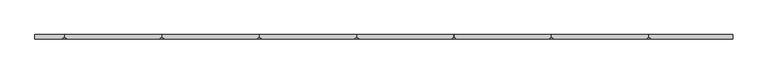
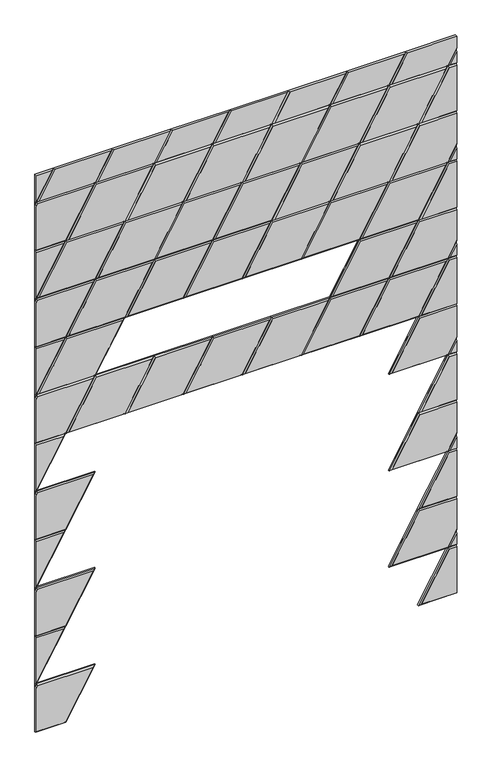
"""IFC4 building model written with IfcOpenShell, lengths in millimetres: proxy geometry, Wall_Cissu 5.3dm."""

from ifc_helpers import new_model, si_unit, origin, place, context, project, spatial, faceted_brep, source, transform, mapped, element, save


def generic_models_64ce190c(model_context):
    return source(origin(), model_context, "Body", "Brep", [
        faceted_brep([(4508.0, 6.037064, 1693.7724847), (4512.0151491, 6.037064, 1693.7724847), (4508.0, 6.037064, 1686.8180425), (4508.0, 0.037064, 1686.8180425), (4512.0151491, 0.037064, 1693.7724847), (4508.0, 0.037064, 1693.7724847), (4508.0, -2.2810834, 1691.4543373)], [[[0, 1, 2]], [[3, 2, 1, 4]], [[0, 5, 4, 1]], [[6, 3, 4]], [[5, 6, 4]], [[0, 2, 3, 6, 5]]]),
        faceted_brep([(4508.0, 6.037064, 1935.7399825), (4651.7151491, 6.037064, 1935.7399825), (4512.0151491, 6.037064, 1693.7724847), (4508.0, 6.037064, 1693.7724847), (4508.0, 0.037064, 1693.7724847), (4512.0151491, 0.037064, 1693.7724847), (4651.7151491, 0.037064, 1935.7399825), (4508.0, 0.037064, 1935.7399825), (4508.0, -5.962936, 1929.7399825), (4508.0, -5.962936, 1699.7724847), (4508.5510475, -5.962936, 1699.7724847), (4641.3228443, -5.962936, 1929.7399825)], [[[0, 1, 2, 3]], [[4, 3, 2, 5]], [[5, 2, 1, 6]], [[0, 7, 6, 1]], [[8, 9, 10, 11]], [[9, 4, 5, 10]], [[5, 6, 11, 10]], [[7, 8, 11, 6]], [[0, 3, 4, 9, 8, 7]]]),
        faceted_brep([(4508.0, 6.037064, 2419.6749782), (4651.7151491, 6.037064, 2419.6749782), (4512.0151491, 6.037064, 2177.7074804), (4508.0, 6.037064, 2177.7074804), (4508.0, 0.037064, 2177.7074804), (4512.0151491, 0.037064, 2177.7074804), (4651.7151491, 0.037064, 2419.6749782), (4508.0, 0.037064, 2419.6749782), (4508.0, -5.962936, 2413.6749782), (4508.0, -5.962936, 2183.7074804), (4508.5510475, -5.962936, 2183.7074804), (4641.3228443, -5.962936, 2413.6749782)], [[[0, 1, 2, 3]], [[4, 3, 2, 5]], [[5, 2, 1, 6]], [[0, 7, 6, 1]], [[8, 9, 10, 11]], [[9, 4, 5, 10]], [[5, 6, 11, 10]], [[7, 8, 11, 6]], [[0, 3, 4, 9, 8, 7]]]),
        faceted_brep([(4508.0, 6.037064, 2177.7074804), (4512.0151491, 6.037064, 2177.7074804), (4508.0, 6.037064, 2170.7530381), (4508.0, 0.037064, 2170.7530381), (4512.0151491, 0.037064, 2177.7074804), (4508.0, 0.037064, 2177.7074804), (4508.0, -2.2810834, 2175.3893329)], [[[0, 1, 2]], [[3, 2, 1, 4]], [[0, 5, 4, 1]], [[6, 3, 4]], [[5, 6, 4]], [[0, 2, 3, 6, 5]]]),
        faceted_brep([(4508.0, 6.037064, 2800.0), (4591.8959028, 6.037064, 2800.0), (4512.0151491, 6.037064, 2661.642476), (4508.0, 6.037064, 2661.642476), (4508.0, 0.037064, 2661.642476), (4512.0151491, 0.037064, 2661.642476), (4508.0, -5.962936, 2667.642476), (4508.5510475, -5.962936, 2667.642476), (4508.0, -5.962936, 2800.0), (4584.9676996, -5.962936, 2800.0), (4591.8959028, 0.037064, 2800.0)], [[[0, 1, 2, 3]], [[4, 3, 2, 5]], [[6, 4, 5, 7]], [[8, 9, 10, 1, 0]], [[10, 5, 2, 1]], [[8, 6, 7, 9]], [[9, 7, 5, 10]], [[0, 3, 4, 6, 8]]]),
        faceted_brep([(4508.0, 6.037064, 2661.642476), (4512.0151491, 6.037064, 2661.642476), (4508.0, 6.037064, 2654.6880337), (4508.0, 0.037064, 2654.6880337), (4512.0151491, 0.037064, 2661.642476), (4508.0, 0.037064, 2661.642476), (4508.0, -2.2810834, 2659.3243286)], [[[0, 1, 2]], [[3, 2, 1, 4]], [[0, 5, 4, 1]], [[6, 3, 4]], [[5, 6, 4]], [[0, 2, 3, 6, 5]]]),
        faceted_brep([(4512.0151491, 0.037064, 2661.642476), (4512.0151491, 6.037064, 2661.642476), (4791.4151491, 6.037064, 2661.642476), (4791.4151491, 0.037064, 2661.642476), (4787.9510475, -5.962936, 2667.642476), (4522.407454, -5.962936, 2667.642476), (4591.8959028, 6.037064, 2800.0), (4871.2959028, 6.037064, 2800.0), (4591.8959028, 0.037064, 2800.0), (4871.2959028, 0.037064, 2800.0), (4598.8241061, -5.962936, 2800.0), (4864.3676996, -5.962936, 2800.0)], [[[0, 1, 2, 3]], [[0, 3, 4, 5]], [[6, 7, 2, 1]], [[6, 1, 0, 8]], [[9, 3, 2, 7]], [[10, 5, 4, 11]], [[8, 0, 5, 10]], [[11, 4, 3, 9]], [[6, 8, 10, 11, 9, 7]]]),
        faceted_brep([(4508.0, 6.037064, 2654.6880337), (4512.0151491, 6.037064, 2661.642476), (4791.4151491, 6.037064, 2661.642476), (4651.7151491, 6.037064, 2419.6749782), (4508.0, 6.037064, 2419.6749782), (4508.0, 0.037064, 2654.6880337), (4512.0151491, 0.037064, 2661.642476), (4508.0, 0.037064, 2419.6749782), (4651.7151491, 0.037064, 2419.6749782), (4791.4151491, 0.037064, 2661.642476), (4508.0, -5.962936, 2642.6880337), (4508.0, -5.962936, 2425.6749782), (4648.2510475, -5.962936, 2425.6749782), (4781.0228443, -5.962936, 2655.642476), (4515.4792507, -5.962936, 2655.642476)], [[[0, 1, 2, 3, 4]], [[0, 5, 6, 1]], [[7, 4, 3, 8]], [[8, 3, 2, 9]], [[9, 2, 1, 6]], [[10, 11, 12, 13, 14]], [[5, 10, 14, 6]], [[11, 7, 8, 12]], [[8, 9, 13, 12]], [[9, 6, 14, 13]], [[0, 4, 7, 11, 10, 5]]]),
        faceted_brep([(4791.4151491, 0.037064, 2661.642476), (4791.4151491, 6.037064, 2661.642476), (5070.8151491, 6.037064, 2661.642476), (5070.8151491, 0.037064, 2661.642476), (5067.3510475, -5.962936, 2667.642476), (4801.807454, -5.962936, 2667.642476), (4871.2959028, 6.037064, 2800.0), (5150.6959028, 6.037064, 2800.0), (4871.2959028, 0.037064, 2800.0), (5150.6959028, 0.037064, 2800.0), (4878.2241061, -5.962936, 2800.0), (5143.7676996, -5.962936, 2800.0)], [[[0, 1, 2, 3]], [[0, 3, 4, 5]], [[6, 7, 2, 1]], [[6, 1, 0, 8]], [[9, 3, 2, 7]], [[10, 5, 4, 11]], [[8, 0, 5, 10]], [[11, 4, 3, 9]], [[6, 8, 10, 11, 9, 7]]]),
        faceted_brep([(6508.0, 6.037064, 2419.6749782), (6328.1151491, 6.037064, 2419.6749782), (6467.8151491, 6.037064, 2661.642476), (6508.0, 6.037064, 2661.642476), (6467.8151491, 0.037064, 2661.642476), (6328.1151491, 0.037064, 2419.6749782), (6508.0, 0.037064, 2419.6749782), (6508.0, 0.037064, 2661.642476), (6508.0, -5.962936, 2425.6749782), (6508.0, -5.962936, 2655.642476), (6471.2792507, -5.962936, 2655.642476), (6338.507454, -5.962936, 2425.6749782)], [[[0, 1, 2, 3]], [[4, 2, 1, 5]], [[0, 6, 5, 1]], [[7, 3, 2, 4]], [[8, 9, 10, 11]], [[4, 5, 11, 10]], [[6, 8, 11, 5]], [[9, 7, 4, 10]], [[0, 3, 7, 9, 8, 6]]]),
        faceted_brep([(5070.8151491, 0.037064, 2661.642476), (5070.8151491, 6.037064, 2661.642476), (5350.2151491, 6.037064, 2661.642476), (5350.2151491, 0.037064, 2661.642476), (5346.7510475, -5.962936, 2667.642476), (5081.207454, -5.962936, 2667.642476), (5150.6959028, 6.037064, 2800.0), (5430.0959028, 6.037064, 2800.0), (5150.6959028, 0.037064, 2800.0), (5430.0959028, 0.037064, 2800.0), (5157.6241061, -5.962936, 2800.0), (5423.1676996, -5.962936, 2800.0)], [[[0, 1, 2, 3]], [[0, 3, 4, 5]], [[6, 7, 2, 1]], [[6, 1, 0, 8]], [[9, 3, 2, 7]], [[10, 5, 4, 11]], [[8, 0, 5, 10]], [[11, 4, 3, 9]], [[6, 8, 10, 11, 9, 7]]]),
        faceted_brep([(6508.0, 6.037064, 2661.642476), (6467.8151491, 6.037064, 2661.642476), (6508.0, 6.037064, 2731.2446794), (6508.0, 0.037064, 2731.2446794), (6467.8151491, 0.037064, 2661.642476), (6508.0, 0.037064, 2661.642476), (6508.0, -5.962936, 2667.642476), (6508.0, -5.962936, 2719.2446794), (6478.207454, -5.962936, 2667.642476)], [[[0, 1, 2]], [[3, 2, 1, 4]], [[0, 5, 4, 1]], [[6, 7, 8]], [[7, 3, 4, 8]], [[5, 6, 8, 4]], [[0, 2, 3, 7, 6, 5]]]),
        faceted_brep([(6188.4151491, 0.037064, 2661.642476), (6188.4151491, 6.037064, 2661.642476), (6467.8151491, 6.037064, 2661.642476), (6467.8151491, 0.037064, 2661.642476), (6508.0, 6.037064, 2731.2446794), (6508.0, 0.037064, 2731.2446794), (6508.0, -5.962936, 2743.2446794), (6508.0, -5.962936, 2800.0), (6275.2241061, -5.962936, 2800.0), (6198.807454, -5.962936, 2667.642476), (6464.3510475, -5.962936, 2667.642476), (6508.0, 6.037064, 2800.0), (6268.2959028, 6.037064, 2800.0), (6268.2959028, 0.037064, 2800.0)], [[[0, 1, 2, 3]], [[4, 5, 3, 2]], [[6, 7, 8, 9, 10]], [[0, 3, 10, 9]], [[5, 6, 10, 3]], [[6, 5, 4, 11, 7]], [[12, 11, 4, 2, 1]], [[12, 1, 0, 13]], [[13, 0, 9, 8]], [[12, 13, 8, 7, 11]]]),
        faceted_brep([(5909.0151491, 0.037064, 2661.642476), (5909.0151491, 6.037064, 2661.642476), (6188.4151491, 6.037064, 2661.642476), (6188.4151491, 0.037064, 2661.642476), (6184.9510475, -5.962936, 2667.642476), (5919.407454, -5.962936, 2667.642476), (5988.8959028, 6.037064, 2800.0), (6268.2959028, 6.037064, 2800.0), (5988.8959028, 0.037064, 2800.0), (6268.2959028, 0.037064, 2800.0), (5995.8241061, -5.962936, 2800.0), (6261.3676996, -5.962936, 2800.0)], [[[0, 1, 2, 3]], [[0, 3, 4, 5]], [[6, 7, 2, 1]], [[6, 1, 0, 8]], [[9, 3, 2, 7]], [[10, 5, 4, 11]], [[8, 0, 5, 10]], [[11, 4, 3, 9]], [[6, 8, 10, 11, 9, 7]]]),
        faceted_brep([(5629.6151491, 0.037064, 2661.642476), (5629.6151491, 6.037064, 2661.642476), (5909.0151491, 6.037064, 2661.642476), (5909.0151491, 0.037064, 2661.642476), (5905.5510475, -5.962936, 2667.642476), (5640.007454, -5.962936, 2667.642476), (5709.4959028, 6.037064, 2800.0), (5988.8959028, 6.037064, 2800.0), (5709.4959028, 0.037064, 2800.0), (5988.8959028, 0.037064, 2800.0), (5716.4241061, -5.962936, 2800.0), (5981.9676996, -5.962936, 2800.0)], [[[0, 1, 2, 3]], [[0, 3, 4, 5]], [[6, 7, 2, 1]], [[6, 1, 0, 8]], [[9, 3, 2, 7]], [[10, 5, 4, 11]], [[8, 0, 5, 10]], [[11, 4, 3, 9]], [[6, 8, 10, 11, 9, 7]]]),
        faceted_brep([(5350.2151491, 0.037064, 2661.642476), (5350.2151491, 6.037064, 2661.642476), (5629.6151491, 6.037064, 2661.642476), (5629.6151491, 0.037064, 2661.642476), (5626.1510475, -5.962936, 2667.642476), (5360.607454, -5.962936, 2667.642476), (5430.0959028, 6.037064, 2800.0), (5709.4959028, 6.037064, 2800.0), (5430.0959028, 0.037064, 2800.0), (5709.4959028, 0.037064, 2800.0), (5437.0241061, -5.962936, 2800.0), (5702.5676996, -5.962936, 2800.0)], [[[0, 1, 2, 3]], [[0, 3, 4, 5]], [[6, 7, 2, 1]], [[6, 1, 0, 8]], [[9, 3, 2, 7]], [[10, 5, 4, 11]], [[8, 0, 5, 10]], [[11, 4, 3, 9]], [[6, 8, 10, 11, 9, 7]]]),
        faceted_brep([(4508.0, 6.037064, 2170.7530381), (4512.0151491, 6.037064, 2177.7074804), (4791.4151491, 6.037064, 2177.7074804), (4651.7151491, 6.037064, 1935.7399825), (4508.0, 6.037064, 1935.7399825), (4508.0, 0.037064, 2170.7530381), (4512.0151491, 0.037064, 2177.7074804), (4508.0, 0.037064, 1935.7399825), (4651.7151491, 0.037064, 1935.7399825), (4791.4151491, 0.037064, 2177.7074804), (4508.0, -5.962936, 2158.7530381), (4508.0, -5.962936, 1941.7399825), (4648.2510475, -5.962936, 1941.7399825), (4781.0228443, -5.962936, 2171.7074804), (4515.4792507, -5.962936, 2171.7074804)], [[[0, 1, 2, 3, 4]], [[0, 5, 6, 1]], [[7, 4, 3, 8]], [[8, 3, 2, 9]], [[9, 2, 1, 6]], [[10, 11, 12, 13, 14]], [[5, 10, 14, 6]], [[11, 7, 8, 12]], [[8, 9, 13, 12]], [[9, 6, 14, 13]], [[0, 4, 7, 11, 10, 5]]]),
        faceted_brep([(6508.0, 6.037064, 1935.7399825), (6328.1151491, 6.037064, 1935.7399825), (6467.8151491, 6.037064, 2177.7074804), (6508.0, 6.037064, 2177.7074804), (6467.8151491, 0.037064, 2177.7074804), (6328.1151491, 0.037064, 1935.7399825), (6508.0, 0.037064, 1935.7399825), (6508.0, 0.037064, 2177.7074804), (6508.0, -5.962936, 1941.7399825), (6508.0, -5.962936, 2171.7074804), (6471.2792507, -5.962936, 2171.7074804), (6338.507454, -5.962936, 1941.7399825)], [[[0, 1, 2, 3]], [[4, 2, 1, 5]], [[0, 6, 5, 1]], [[7, 3, 2, 4]], [[8, 9, 10, 11]], [[4, 5, 11, 10]], [[6, 8, 11, 5]], [[9, 7, 4, 10]], [[0, 3, 7, 9, 8, 6]]]),
        faceted_brep([(6508.0, 6.037064, 2177.7074804), (6467.8151491, 6.037064, 2177.7074804), (6508.0, 6.037064, 2247.3096838), (6508.0, 0.037064, 2247.3096838), (6467.8151491, 0.037064, 2177.7074804), (6508.0, 0.037064, 2177.7074804), (6508.0, -5.962936, 2183.7074804), (6508.0, -5.962936, 2235.3096838), (6478.207454, -5.962936, 2183.7074804)], [[[0, 1, 2]], [[3, 2, 1, 4]], [[0, 5, 4, 1]], [[6, 7, 8]], [[7, 3, 4, 8]], [[5, 6, 8, 4]], [[0, 2, 3, 7, 6, 5]]]),
        faceted_brep([(6508.0, 6.037064, 2247.3096838), (6467.8151491, 6.037064, 2177.7074804), (6188.4151491, 6.037064, 2177.7074804), (6328.1151491, 6.037064, 2419.6749782), (6508.0, 6.037064, 2419.6749782), (6328.1151491, 0.037064, 2419.6749782), (6188.4151491, 0.037064, 2177.7074804), (6467.8151491, 0.037064, 2177.7074804), (6508.0, 0.037064, 2247.3096838), (6508.0, 0.037064, 2419.6749782), (6508.0, -5.962936, 2259.3096838), (6508.0, -5.962936, 2413.6749782), (6331.5792507, -5.962936, 2413.6749782), (6198.807454, -5.962936, 2183.7074804), (6464.3510475, -5.962936, 2183.7074804)], [[[0, 1, 2, 3, 4]], [[5, 3, 2, 6]], [[6, 2, 1, 7]], [[0, 8, 7, 1]], [[9, 4, 3, 5]], [[10, 11, 12, 13, 14]], [[5, 6, 13, 12]], [[6, 7, 14, 13]], [[8, 10, 14, 7]], [[11, 9, 5, 12]], [[0, 4, 9, 11, 10, 8]]]),
        faceted_brep([(4508.0, 6.037064, 1686.8180425), (4512.0151491, 6.037064, 1693.7724847), (4791.4151491, 6.037064, 1693.7724847), (4651.7151491, 6.037064, 1451.8049869), (4508.0, 6.037064, 1451.8049869), (4508.0, 0.037064, 1686.8180425), (4512.0151491, 0.037064, 1693.7724847), (4508.0, 0.037064, 1451.8049869), (4651.7151491, 0.037064, 1451.8049869), (4791.4151491, 0.037064, 1693.7724847), (4508.0, -5.962936, 1674.8180425), (4508.0, -5.962936, 1457.8049869), (4648.2510475, -5.962936, 1457.8049869), (4781.0228443, -5.962936, 1687.7724847), (4515.4792507, -5.962936, 1687.7724847)], [[[0, 1, 2, 3, 4]], [[0, 5, 6, 1]], [[7, 4, 3, 8]], [[8, 3, 2, 9]], [[9, 2, 1, 6]], [[10, 11, 12, 13, 14]], [[5, 10, 14, 6]], [[11, 7, 8, 12]], [[8, 9, 13, 12]], [[9, 6, 14, 13]], [[0, 4, 7, 11, 10, 5]]]),
        faceted_brep([(6508.0, 6.037064, 1451.8049869), (6328.1151491, 6.037064, 1451.8049869), (6467.8151491, 6.037064, 1693.7724847), (6508.0, 6.037064, 1693.7724847), (6467.8151491, 0.037064, 1693.7724847), (6328.1151491, 0.037064, 1451.8049869), (6508.0, 0.037064, 1451.8049869), (6508.0, 0.037064, 1693.7724847), (6508.0, -5.962936, 1457.8049869), (6508.0, -5.962936, 1687.7724847), (6471.2792507, -5.962936, 1687.7724847), (6338.507454, -5.962936, 1457.8049869)], [[[0, 1, 2, 3]], [[4, 2, 1, 5]], [[0, 6, 5, 1]], [[7, 3, 2, 4]], [[8, 9, 10, 11]], [[4, 5, 11, 10]], [[6, 8, 11, 5]], [[9, 7, 4, 10]], [[0, 3, 7, 9, 8, 6]]]),
        faceted_brep([(6508.0, 6.037064, 1693.7724847), (6467.8151491, 6.037064, 1693.7724847), (6508.0, 6.037064, 1763.3746882), (6508.0, 0.037064, 1763.3746882), (6467.8151491, 0.037064, 1693.7724847), (6508.0, 0.037064, 1693.7724847), (6508.0, -5.962936, 1699.7724847), (6508.0, -5.962936, 1751.3746882), (6478.207454, -5.962936, 1699.7724847)], [[[0, 1, 2]], [[3, 2, 1, 4]], [[0, 5, 4, 1]], [[6, 7, 8]], [[7, 3, 4, 8]], [[5, 6, 8, 4]], [[0, 2, 3, 7, 6, 5]]]),
        faceted_brep([(6508.0, 6.037064, 1763.3746882), (6467.8151491, 6.037064, 1693.7724847), (6188.4151491, 6.037064, 1693.7724847), (6328.1151491, 6.037064, 1935.7399825), (6508.0, 6.037064, 1935.7399825), (6328.1151491, 0.037064, 1935.7399825), (6188.4151491, 0.037064, 1693.7724847), (6467.8151491, 0.037064, 1693.7724847), (6508.0, 0.037064, 1763.3746882), (6508.0, 0.037064, 1935.7399825), (6508.0, -5.962936, 1775.3746882), (6508.0, -5.962936, 1929.7399825), (6331.5792507, -5.962936, 1929.7399825), (6198.807454, -5.962936, 1699.7724847), (6464.3510475, -5.962936, 1699.7724847)], [[[0, 1, 2, 3, 4]], [[5, 3, 2, 6]], [[6, 2, 1, 7]], [[0, 8, 7, 1]], [[9, 4, 3, 5]], [[10, 11, 12, 13, 14]], [[5, 6, 13, 12]], [[6, 7, 14, 13]], [[8, 10, 14, 7]], [[11, 9, 5, 12]], [[0, 4, 9, 11, 10, 8]]]),
        faceted_brep([(4508.0, 6.037064, 1451.8049869), (4651.7151491, 6.037064, 1451.8049869), (4512.0151491, 6.037064, 1209.8374891), (4508.0, 6.037064, 1209.8374891), (4508.0, 0.037064, 1209.8374891), (4512.0151491, 0.037064, 1209.8374891), (4651.7151491, 0.037064, 1451.8049869), (4508.0, 0.037064, 1451.8049869), (4508.0, -5.962936, 1445.8049869), (4508.0, -5.962936, 1215.8374891), (4508.5510475, -5.962936, 1215.8374891), (4641.3228443, -5.962936, 1445.8049869)], [[[0, 1, 2, 3]], [[4, 3, 2, 5]], [[5, 2, 1, 6]], [[0, 7, 6, 1]], [[8, 9, 10, 11]], [[9, 4, 5, 10]], [[5, 6, 11, 10]], [[7, 8, 11, 6]], [[0, 3, 4, 9, 8, 7]]]),
        faceted_brep([(4508.0, 6.037064, 1209.8374891), (4512.0151491, 6.037064, 1209.8374891), (4508.0, 6.037064, 1202.8830468), (4508.0, 0.037064, 1202.8830468), (4512.0151491, 0.037064, 1209.8374891), (4508.0, 0.037064, 1209.8374891), (4508.0, -2.2810834, 1207.5193417)], [[[0, 1, 2]], [[3, 2, 1, 4]], [[0, 5, 4, 1]], [[6, 3, 4]], [[5, 6, 4]], [[0, 2, 3, 6, 5]]]),
        faceted_brep([(4508.0, 6.037064, 1202.8830468), (4512.0151491, 6.037064, 1209.8374891), (4791.4151491, 6.037064, 1209.8374891), (4651.7151491, 6.037064, 967.8699913), (4508.0, 6.037064, 967.8699913), (4508.0, 0.037064, 1202.8830468), (4512.0151491, 0.037064, 1209.8374891), (4508.0, 0.037064, 967.8699913), (4651.7151491, 0.037064, 967.8699913), (4791.4151491, 0.037064, 1209.8374891), (4508.0, -5.962936, 1190.8830468), (4508.0, -5.962936, 973.8699913), (4648.2510475, -5.962936, 973.8699913), (4781.0228443, -5.962936, 1203.8374891), (4515.4792507, -5.962936, 1203.8374891)], [[[0, 1, 2, 3, 4]], [[0, 5, 6, 1]], [[7, 4, 3, 8]], [[8, 3, 2, 9]], [[9, 2, 1, 6]], [[10, 11, 12, 13, 14]], [[5, 10, 14, 6]], [[11, 7, 8, 12]], [[8, 9, 13, 12]], [[9, 6, 14, 13]], [[0, 4, 7, 11, 10, 5]]]),
        faceted_brep([(6508.0, 6.037064, 967.8699913), (6328.1151491, 6.037064, 967.8699913), (6467.8151491, 6.037064, 1209.8374891), (6508.0, 6.037064, 1209.8374891), (6467.8151491, 0.037064, 1209.8374891), (6328.1151491, 0.037064, 967.8699913), (6508.0, 0.037064, 967.8699913), (6508.0, 0.037064, 1209.8374891), (6508.0, -5.962936, 973.8699913), (6508.0, -5.962936, 1203.8374891), (6471.2792507, -5.962936, 1203.8374891), (6338.507454, -5.962936, 973.8699913)], [[[0, 1, 2, 3]], [[4, 2, 1, 5]], [[0, 6, 5, 1]], [[7, 3, 2, 4]], [[8, 9, 10, 11]], [[4, 5, 11, 10]], [[6, 8, 11, 5]], [[9, 7, 4, 10]], [[0, 3, 7, 9, 8, 6]]]),
        faceted_brep([(6508.0, 6.037064, 1209.8374891), (6467.8151491, 6.037064, 1209.8374891), (6508.0, 6.037064, 1279.4396925), (6508.0, 0.037064, 1279.4396925), (6467.8151491, 0.037064, 1209.8374891), (6508.0, 0.037064, 1209.8374891), (6508.0, -5.962936, 1215.8374891), (6508.0, -5.962936, 1267.4396925), (6478.207454, -5.962936, 1215.8374891)], [[[0, 1, 2]], [[3, 2, 1, 4]], [[0, 5, 4, 1]], [[6, 7, 8]], [[7, 3, 4, 8]], [[5, 6, 8, 4]], [[0, 2, 3, 7, 6, 5]]]),
        faceted_brep([(6508.0, 6.037064, 1279.4396925), (6467.8151491, 6.037064, 1209.8374891), (6188.4151491, 6.037064, 1209.8374891), (6328.1151491, 6.037064, 1451.8049869), (6508.0, 6.037064, 1451.8049869), (6328.1151491, 0.037064, 1451.8049869), (6188.4151491, 0.037064, 1209.8374891), (6467.8151491, 0.037064, 1209.8374891), (6508.0, 0.037064, 1279.4396925), (6508.0, 0.037064, 1451.8049869), (6508.0, -5.962936, 1291.4396925), (6508.0, -5.962936, 1445.8049869), (6331.5792507, -5.962936, 1445.8049869), (6198.807454, -5.962936, 1215.8374891), (6464.3510475, -5.962936, 1215.8374891)], [[[0, 1, 2, 3, 4]], [[5, 3, 2, 6]], [[6, 2, 1, 7]], [[0, 8, 7, 1]], [[9, 4, 3, 5]], [[10, 11, 12, 13, 14]], [[5, 6, 13, 12]], [[6, 7, 14, 13]], [[8, 10, 14, 7]], [[11, 9, 5, 12]], [[0, 4, 9, 11, 10, 8]]]),
        faceted_brep([(4508.0, 6.037064, 725.9024935), (4512.0151491, 6.037064, 725.9024935), (4508.0, 6.037064, 718.9480512), (4508.0, 0.037064, 718.9480512), (4512.0151491, 0.037064, 725.9024935), (4508.0, 0.037064, 725.9024935), (4508.0, -2.2810834, 723.584346)], [[[0, 1, 2]], [[3, 2, 1, 4]], [[0, 5, 4, 1]], [[6, 3, 4]], [[5, 6, 4]], [[0, 2, 3, 6, 5]]]),
        faceted_brep([(4508.0, 6.037064, 967.8699913), (4651.7151491, 6.037064, 967.8699913), (4512.0151491, 6.037064, 725.9024935), (4508.0, 6.037064, 725.9024935), (4508.0, 0.037064, 725.9024935), (4512.0151491, 0.037064, 725.9024935), (4651.7151491, 0.037064, 967.8699913), (4508.0, 0.037064, 967.8699913), (4508.0, -5.962936, 961.8699913), (4508.0, -5.962936, 731.9024935), (4508.5510475, -5.962936, 731.9024935), (4641.3228443, -5.962936, 961.8699913)], [[[0, 1, 2, 3]], [[4, 3, 2, 5]], [[5, 2, 1, 6]], [[0, 7, 6, 1]], [[8, 9, 10, 11]], [[9, 4, 5, 10]], [[5, 6, 11, 10]], [[7, 8, 11, 6]], [[0, 3, 4, 9, 8, 7]]]),
        faceted_brep([(4508.0, 6.037064, 718.9480512), (4512.0151491, 6.037064, 725.9024935), (4791.4151491, 6.037064, 725.9024935), (4651.7151491, 6.037064, 483.9349956), (4508.0, 6.037064, 483.9349956), (4508.0, 0.037064, 718.9480512), (4512.0151491, 0.037064, 725.9024935), (4508.0, 0.037064, 483.9349956), (4651.7151491, 0.037064, 483.9349956), (4791.4151491, 0.037064, 725.9024935), (4508.0, -5.962936, 706.9480512), (4508.0, -5.962936, 489.9349956), (4648.2510475, -5.962936, 489.9349956), (4781.0228443, -5.962936, 719.9024935), (4515.4792507, -5.962936, 719.9024935)], [[[0, 1, 2, 3, 4]], [[0, 5, 6, 1]], [[7, 4, 3, 8]], [[8, 3, 2, 9]], [[9, 2, 1, 6]], [[10, 11, 12, 13, 14]], [[5, 10, 14, 6]], [[11, 7, 8, 12]], [[8, 9, 13, 12]], [[9, 6, 14, 13]], [[0, 4, 7, 11, 10, 5]]]),
        faceted_brep([(6508.0, 6.037064, 483.9349956), (6328.1151491, 6.037064, 483.9349956), (6467.8151491, 6.037064, 725.9024935), (6508.0, 6.037064, 725.9024935), (6467.8151491, 0.037064, 725.9024935), (6328.1151491, 0.037064, 483.9349956), (6508.0, 0.037064, 483.9349956), (6508.0, 0.037064, 725.9024935), (6508.0, -5.962936, 489.9349956), (6508.0, -5.962936, 719.9024935), (6471.2792507, -5.962936, 719.9024935), (6338.507454, -5.962936, 489.9349956)], [[[0, 1, 2, 3]], [[4, 2, 1, 5]], [[0, 6, 5, 1]], [[7, 3, 2, 4]], [[8, 9, 10, 11]], [[4, 5, 11, 10]], [[6, 8, 11, 5]], [[9, 7, 4, 10]], [[0, 3, 7, 9, 8, 6]]]),
        faceted_brep([(6508.0, 6.037064, 725.9024935), (6467.8151491, 6.037064, 725.9024935), (6508.0, 6.037064, 795.5046969), (6508.0, 0.037064, 795.5046969), (6467.8151491, 0.037064, 725.9024935), (6508.0, 0.037064, 725.9024935), (6508.0, -5.962936, 731.9024935), (6508.0, -5.962936, 783.5046969), (6478.207454, -5.962936, 731.9024935)], [[[0, 1, 2]], [[3, 2, 1, 4]], [[0, 5, 4, 1]], [[6, 7, 8]], [[7, 3, 4, 8]], [[5, 6, 8, 4]], [[0, 2, 3, 7, 6, 5]]]),
        faceted_brep([(6508.0, 6.037064, 795.5046969), (6467.8151491, 6.037064, 725.9024935), (6188.4151491, 6.037064, 725.9024935), (6328.1151491, 6.037064, 967.8699913), (6508.0, 6.037064, 967.8699913), (6328.1151491, 0.037064, 967.8699913), (6188.4151491, 0.037064, 725.9024935), (6467.8151491, 0.037064, 725.9024935), (6508.0, 0.037064, 795.5046969), (6508.0, 0.037064, 967.8699913), (6508.0, -5.962936, 807.5046969), (6508.0, -5.962936, 961.8699913), (6331.5792507, -5.962936, 961.8699913), (6198.807454, -5.962936, 731.9024935), (6464.3510475, -5.962936, 731.9024935)], [[[0, 1, 2, 3, 4]], [[5, 3, 2, 6]], [[6, 2, 1, 7]], [[0, 8, 7, 1]], [[9, 4, 3, 5]], [[10, 11, 12, 13, 14]], [[5, 6, 13, 12]], [[6, 7, 14, 13]], [[8, 10, 14, 7]], [[11, 9, 5, 12]], [[0, 4, 9, 11, 10, 8]]]),
        faceted_brep([(6508.0, 6.037064, 241.9674978), (6467.8151491, 6.037064, 241.9674978), (6508.0, 6.037064, 311.5697013), (6508.0, 0.037064, 311.5697013), (6467.8151491, 0.037064, 241.9674978), (6508.0, 0.037064, 241.9674978), (6508.0, -5.962936, 247.9674978), (6508.0, -5.962936, 299.5697013), (6478.207454, -5.962936, 247.9674978)], [[[0, 1, 2]], [[3, 2, 1, 4]], [[0, 5, 4, 1]], [[6, 7, 8]], [[7, 3, 4, 8]], [[5, 6, 8, 4]], [[0, 2, 3, 7, 6, 5]]]),
        faceted_brep([(6508.0, 6.037064, 0.0), (6328.1151491, 6.037064, 0.0), (6467.8151491, 6.037064, 241.9674978), (6508.0, 6.037064, 241.9674978), (6467.8151491, 0.037064, 241.9674978), (6328.1151491, 0.037064, 0.0), (6508.0, 0.037064, 0.0), (6508.0, 0.037064, 241.9674978), (6508.0, -5.962936, 6.0), (6508.0, -5.962936, 235.9674978), (6471.2792507, -5.962936, 235.9674978), (6338.507454, -5.962936, 6.0)], [[[0, 1, 2, 3]], [[4, 2, 1, 5]], [[0, 6, 5, 1]], [[7, 3, 2, 4]], [[8, 9, 10, 11]], [[4, 5, 11, 10]], [[6, 8, 11, 5]], [[9, 7, 4, 10]], [[0, 3, 7, 9, 8, 6]]]),
        faceted_brep([(4508.0, 6.037064, 241.9674978), (4512.0151491, 6.037064, 241.9674978), (4508.0, 6.037064, 235.0130556), (4508.0, 0.037064, 235.0130556), (4512.0151491, 0.037064, 241.9674978), (4508.0, 0.037064, 241.9674978), (4508.0, -2.2810834, 239.6493504)], [[[0, 1, 2]], [[3, 2, 1, 4]], [[0, 5, 4, 1]], [[6, 3, 4]], [[5, 6, 4]], [[0, 2, 3, 6, 5]]]),
        faceted_brep([(4508.0, 6.037064, 235.0130556), (4512.0151491, 6.037064, 241.9674978), (4791.4151491, 6.037064, 241.9674978), (4651.7151491, 6.037064, 0.0), (4508.0, 6.037064, 0.0), (4508.0, 0.037064, 235.0130556), (4512.0151491, 0.037064, 241.9674978), (4508.0, 0.037064, 0.0), (4651.7151491, 0.037064, 0.0), (4791.4151491, 0.037064, 241.9674978), (4508.0, -5.962936, 223.0130556), (4508.0, -5.962936, 6.0), (4648.2510475, -5.962936, 6.0), (4781.0228443, -5.962936, 235.9674978), (4515.4792507, -5.962936, 235.9674978)], [[[0, 1, 2, 3, 4]], [[0, 5, 6, 1]], [[7, 4, 3, 8]], [[8, 3, 2, 9]], [[9, 2, 1, 6]], [[10, 11, 12, 13, 14]], [[5, 10, 14, 6]], [[11, 7, 8, 12]], [[8, 9, 13, 12]], [[9, 6, 14, 13]], [[0, 4, 7, 11, 10, 5]]]),
        faceted_brep([(4508.0, 6.037064, 483.9349956), (4651.7151491, 6.037064, 483.9349956), (4512.0151491, 6.037064, 241.9674978), (4508.0, 6.037064, 241.9674978), (4508.0, 0.037064, 241.9674978), (4512.0151491, 0.037064, 241.9674978), (4651.7151491, 0.037064, 483.9349956), (4508.0, 0.037064, 483.9349956), (4508.0, -5.962936, 477.9349956), (4508.0, -5.962936, 247.9674978), (4508.5510475, -5.962936, 247.9674978), (4641.3228443, -5.962936, 477.9349956)], [[[0, 1, 2, 3]], [[4, 3, 2, 5]], [[5, 2, 1, 6]], [[0, 7, 6, 1]], [[8, 9, 10, 11]], [[9, 4, 5, 10]], [[5, 6, 11, 10]], [[7, 8, 11, 6]], [[0, 3, 4, 9, 8, 7]]]),
        faceted_brep([(6508.0, 6.037064, 311.5697013), (6467.8151491, 6.037064, 241.9674978), (6188.4151491, 6.037064, 241.9674978), (6328.1151491, 6.037064, 483.9349956), (6508.0, 6.037064, 483.9349956), (6328.1151491, 0.037064, 483.9349956), (6188.4151491, 0.037064, 241.9674978), (6467.8151491, 0.037064, 241.9674978), (6508.0, 0.037064, 311.5697013), (6508.0, 0.037064, 483.9349956), (6508.0, -5.962936, 323.5697013), (6508.0, -5.962936, 477.9349956), (6331.5792507, -5.962936, 477.9349956), (6198.807454, -5.962936, 247.9674978), (6464.3510475, -5.962936, 247.9674978)], [[[0, 1, 2, 3, 4]], [[5, 3, 2, 6]], [[6, 2, 1, 7]], [[0, 8, 7, 1]], [[9, 4, 3, 5]], [[10, 11, 12, 13, 14]], [[5, 6, 13, 12]], [[6, 7, 14, 13]], [[8, 10, 14, 7]], [[11, 9, 5, 12]], [[0, 4, 9, 11, 10, 8]]]),
        faceted_brep([(4791.4151491, 6.037064, 2661.642476), (5070.8151491, 6.037064, 2661.642476), (4931.1151491, 6.037064, 2419.6749782), (4651.7151491, 6.037064, 2419.6749782), (4791.4151491, 0.037064, 2661.642476), (4651.7151491, 0.037064, 2419.6749782), (4931.1151491, 0.037064, 2419.6749782), (5070.8151491, 0.037064, 2661.642476), (4927.6510475, -5.962936, 2425.6749782), (5060.4228443, -5.962936, 2655.642476), (4794.8792507, -5.962936, 2655.642476), (4662.107454, -5.962936, 2425.6749782)], [[[0, 1, 2, 3]], [[4, 0, 3, 5]], [[5, 3, 2, 6]], [[6, 2, 1, 7]], [[7, 1, 0, 4]], [[8, 9, 10, 11]], [[4, 5, 11, 10]], [[5, 6, 8, 11]], [[6, 7, 9, 8]], [[7, 4, 10, 9]]]),
        faceted_brep([(5070.8151491, 6.037064, 2661.642476), (5350.2151491, 6.037064, 2661.642476), (5210.5151491, 6.037064, 2419.6749782), (4931.1151491, 6.037064, 2419.6749782), (5070.8151491, 0.037064, 2661.642476), (4931.1151491, 0.037064, 2419.6749782), (5210.5151491, 0.037064, 2419.6749782), (5350.2151491, 0.037064, 2661.642476), (5207.0510475, -5.962936, 2425.6749782), (5339.8228443, -5.962936, 2655.642476), (5074.2792507, -5.962936, 2655.642476), (4941.507454, -5.962936, 2425.6749782)], [[[0, 1, 2, 3]], [[4, 0, 3, 5]], [[5, 3, 2, 6]], [[6, 2, 1, 7]], [[7, 1, 0, 4]], [[8, 9, 10, 11]], [[4, 5, 11, 10]], [[5, 6, 8, 11]], [[6, 7, 9, 8]], [[7, 4, 10, 9]]]),
        faceted_brep([(6188.4151491, 6.037064, 2661.642476), (6467.8151491, 6.037064, 2661.642476), (6328.1151491, 6.037064, 2419.6749782), (6048.7151491, 6.037064, 2419.6749782), (6188.4151491, 0.037064, 2661.642476), (6048.7151491, 0.037064, 2419.6749782), (6328.1151491, 0.037064, 2419.6749782), (6467.8151491, 0.037064, 2661.642476), (6324.6510475, -5.962936, 2425.6749782), (6457.4228443, -5.962936, 2655.642476), (6191.8792507, -5.962936, 2655.642476), (6059.107454, -5.962936, 2425.6749782)], [[[0, 1, 2, 3]], [[4, 0, 3, 5]], [[5, 3, 2, 6]], [[6, 2, 1, 7]], [[7, 1, 0, 4]], [[8, 9, 10, 11]], [[4, 5, 11, 10]], [[5, 6, 8, 11]], [[6, 7, 9, 8]], [[7, 4, 10, 9]]]),
        faceted_brep([(5909.0151491, 6.037064, 2661.642476), (6188.4151491, 6.037064, 2661.642476), (6048.7151491, 6.037064, 2419.6749782), (5769.3151491, 6.037064, 2419.6749782), (5909.0151491, 0.037064, 2661.642476), (5769.3151491, 0.037064, 2419.6749782), (6048.7151491, 0.037064, 2419.6749782), (6188.4151491, 0.037064, 2661.642476), (6045.2510475, -5.962936, 2425.6749782), (6178.0228443, -5.962936, 2655.642476), (5912.4792507, -5.962936, 2655.642476), (5779.707454, -5.962936, 2425.6749782)], [[[0, 1, 2, 3]], [[4, 0, 3, 5]], [[5, 3, 2, 6]], [[6, 2, 1, 7]], [[7, 1, 0, 4]], [[8, 9, 10, 11]], [[4, 5, 11, 10]], [[5, 6, 8, 11]], [[6, 7, 9, 8]], [[7, 4, 10, 9]]]),
        faceted_brep([(5629.6151491, 6.037064, 2661.642476), (5909.0151491, 6.037064, 2661.642476), (5769.3151491, 6.037064, 2419.6749782), (5489.9151491, 6.037064, 2419.6749782), (5629.6151491, 0.037064, 2661.642476), (5489.9151491, 0.037064, 2419.6749782), (5769.3151491, 0.037064, 2419.6749782), (5909.0151491, 0.037064, 2661.642476), (5765.8510475, -5.962936, 2425.6749782), (5898.6228443, -5.962936, 2655.642476), (5633.0792507, -5.962936, 2655.642476), (5500.307454, -5.962936, 2425.6749782)], [[[0, 1, 2, 3]], [[4, 0, 3, 5]], [[5, 3, 2, 6]], [[6, 2, 1, 7]], [[7, 1, 0, 4]], [[8, 9, 10, 11]], [[4, 5, 11, 10]], [[5, 6, 8, 11]], [[6, 7, 9, 8]], [[7, 4, 10, 9]]]),
        faceted_brep([(5350.2151491, 6.037064, 2661.642476), (5629.6151491, 6.037064, 2661.642476), (5489.9151491, 6.037064, 2419.6749782), (5210.5151491, 6.037064, 2419.6749782), (5350.2151491, 0.037064, 2661.642476), (5210.5151491, 0.037064, 2419.6749782), (5489.9151491, 0.037064, 2419.6749782), (5629.6151491, 0.037064, 2661.642476), (5486.4510475, -5.962936, 2425.6749782), (5619.2228443, -5.962936, 2655.642476), (5353.6792507, -5.962936, 2655.642476), (5220.907454, -5.962936, 2425.6749782)], [[[0, 1, 2, 3]], [[4, 0, 3, 5]], [[5, 3, 2, 6]], [[6, 2, 1, 7]], [[7, 1, 0, 4]], [[8, 9, 10, 11]], [[4, 5, 11, 10]], [[5, 6, 8, 11]], [[6, 7, 9, 8]], [[7, 4, 10, 9]]]),
        faceted_brep([(4651.7151491, 6.037064, 2419.6749782), (4931.1151491, 6.037064, 2419.6749782), (4791.4151491, 6.037064, 2177.7074804), (4512.0151491, 6.037064, 2177.7074804), (4651.7151491, 0.037064, 2419.6749782), (4512.0151491, 0.037064, 2177.7074804), (4791.4151491, 0.037064, 2177.7074804), (4931.1151491, 0.037064, 2419.6749782), (4787.9510475, -5.962936, 2183.7074804), (4920.7228443, -5.962936, 2413.6749782), (4655.1792507, -5.962936, 2413.6749782), (4522.407454, -5.962936, 2183.7074804)], [[[0, 1, 2, 3]], [[4, 0, 3, 5]], [[5, 3, 2, 6]], [[6, 2, 1, 7]], [[7, 1, 0, 4]], [[8, 9, 10, 11]], [[4, 5, 11, 10]], [[5, 6, 8, 11]], [[6, 7, 9, 8]], [[7, 4, 10, 9]]]),
        faceted_brep([(4791.4151491, 6.037064, 2177.7074804), (5070.8151491, 6.037064, 2177.7074804), (4931.1151491, 6.037064, 1935.7399825), (4651.7151491, 6.037064, 1935.7399825), (4791.4151491, 0.037064, 2177.7074804), (4651.7151491, 0.037064, 1935.7399825), (4931.1151491, 0.037064, 1935.7399825), (5070.8151491, 0.037064, 2177.7074804), (4927.6510475, -5.962936, 1941.7399825), (5060.4228443, -5.962936, 2171.7074804), (4794.8792507, -5.962936, 2171.7074804), (4662.107454, -5.962936, 1941.7399825)], [[[0, 1, 2, 3]], [[4, 0, 3, 5]], [[5, 3, 2, 6]], [[6, 2, 1, 7]], [[7, 1, 0, 4]], [[8, 9, 10, 11]], [[4, 5, 11, 10]], [[5, 6, 8, 11]], [[6, 7, 9, 8]], [[7, 4, 10, 9]]]),
        faceted_brep([(6188.4151491, 6.037064, 2177.7074804), (6467.8151491, 6.037064, 2177.7074804), (6328.1151491, 6.037064, 1935.7399825), (6048.7151491, 6.037064, 1935.7399825), (6188.4151491, 0.037064, 2177.7074804), (6048.7151491, 0.037064, 1935.7399825), (6328.1151491, 0.037064, 1935.7399825), (6467.8151491, 0.037064, 2177.7074804), (6324.6510475, -5.962936, 1941.7399825), (6457.4228443, -5.962936, 2171.7074804), (6191.8792507, -5.962936, 2171.7074804), (6059.107454, -5.962936, 1941.7399825)], [[[0, 1, 2, 3]], [[4, 0, 3, 5]], [[5, 3, 2, 6]], [[6, 2, 1, 7]], [[7, 1, 0, 4]], [[8, 9, 10, 11]], [[4, 5, 11, 10]], [[5, 6, 8, 11]], [[6, 7, 9, 8]], [[7, 4, 10, 9]]]),
        faceted_brep([(5909.0151491, 6.037064, 2177.7074804), (6188.4151491, 6.037064, 2177.7074804), (6048.7151491, 6.037064, 1935.7399825), (5769.3151491, 6.037064, 1935.7399825), (5909.0151491, 0.037064, 2177.7074804), (5769.3151491, 0.037064, 1935.7399825), (6048.7151491, 0.037064, 1935.7399825), (6188.4151491, 0.037064, 2177.7074804), (6045.2510475, -5.962936, 1941.7399825), (6178.0228443, -5.962936, 2171.7074804), (5912.4792507, -5.962936, 2171.7074804), (5779.707454, -5.962936, 1941.7399825)], [[[0, 1, 2, 3]], [[4, 0, 3, 5]], [[5, 3, 2, 6]], [[6, 2, 1, 7]], [[7, 1, 0, 4]], [[8, 9, 10, 11]], [[4, 5, 11, 10]], [[5, 6, 8, 11]], [[6, 7, 9, 8]], [[7, 4, 10, 9]]]),
        faceted_brep([(5629.6151491, 6.037064, 2177.7074804), (5909.0151491, 6.037064, 2177.7074804), (5769.3151491, 6.037064, 1935.7399825), (5489.9151491, 6.037064, 1935.7399825), (5629.6151491, 0.037064, 2177.7074804), (5489.9151491, 0.037064, 1935.7399825), (5769.3151491, 0.037064, 1935.7399825), (5909.0151491, 0.037064, 2177.7074804), (5765.8510475, -5.962936, 1941.7399825), (5898.6228443, -5.962936, 2171.7074804), (5633.0792507, -5.962936, 2171.7074804), (5500.307454, -5.962936, 1941.7399825)], [[[0, 1, 2, 3]], [[4, 0, 3, 5]], [[5, 3, 2, 6]], [[6, 2, 1, 7]], [[7, 1, 0, 4]], [[8, 9, 10, 11]], [[4, 5, 11, 10]], [[5, 6, 8, 11]], [[6, 7, 9, 8]], [[7, 4, 10, 9]]]),
        faceted_brep([(5350.2151491, 6.037064, 2177.7074804), (5629.6151491, 6.037064, 2177.7074804), (5489.9151491, 6.037064, 1935.7399825), (5210.5151491, 6.037064, 1935.7399825), (5350.2151491, 0.037064, 2177.7074804), (5210.5151491, 0.037064, 1935.7399825), (5489.9151491, 0.037064, 1935.7399825), (5629.6151491, 0.037064, 2177.7074804), (5486.4510475, -5.962936, 1941.7399825), (5619.2228443, -5.962936, 2171.7074804), (5353.6792507, -5.962936, 2171.7074804), (5220.907454, -5.962936, 1941.7399825)], [[[0, 1, 2, 3]], [[4, 0, 3, 5]], [[5, 3, 2, 6]], [[6, 2, 1, 7]], [[7, 1, 0, 4]], [[8, 9, 10, 11]], [[4, 5, 11, 10]], [[5, 6, 8, 11]], [[6, 7, 9, 8]], [[7, 4, 10, 9]]]),
        faceted_brep([(5070.8151491, 6.037064, 2177.7074804), (5350.2151491, 6.037064, 2177.7074804), (5210.5151491, 6.037064, 1935.7399825), (4931.1151491, 6.037064, 1935.7399825), (5070.8151491, 0.037064, 2177.7074804), (4931.1151491, 0.037064, 1935.7399825), (5210.5151491, 0.037064, 1935.7399825), (5350.2151491, 0.037064, 2177.7074804), (5207.0510475, -5.962936, 1941.7399825), (5339.8228443, -5.962936, 2171.7074804), (5074.2792507, -5.962936, 2171.7074804), (4941.507454, -5.962936, 1941.7399825)], [[[0, 1, 2, 3]], [[4, 0, 3, 5]], [[5, 3, 2, 6]], [[6, 2, 1, 7]], [[7, 1, 0, 4]], [[8, 9, 10, 11]], [[4, 5, 11, 10]], [[5, 6, 8, 11]], [[6, 7, 9, 8]], [[7, 4, 10, 9]]]),
        faceted_brep([(4931.1151491, 6.037064, 2419.6749782), (5210.5151491, 6.037064, 2419.6749782), (5070.8151491, 6.037064, 2177.7074804), (4791.4151491, 6.037064, 2177.7074804), (4931.1151491, 0.037064, 2419.6749782), (4791.4151491, 0.037064, 2177.7074804), (5070.8151491, 0.037064, 2177.7074804), (5210.5151491, 0.037064, 2419.6749782), (5067.3510475, -5.962936, 2183.7074804), (5200.1228443, -5.962936, 2413.6749782), (4934.5792507, -5.962936, 2413.6749782), (4801.807454, -5.962936, 2183.7074804)], [[[0, 1, 2, 3]], [[4, 0, 3, 5]], [[5, 3, 2, 6]], [[6, 2, 1, 7]], [[7, 1, 0, 4]], [[8, 9, 10, 11]], [[4, 5, 11, 10]], [[5, 6, 8, 11]], [[6, 7, 9, 8]], [[7, 4, 10, 9]]]),
        faceted_brep([(6048.7151491, 6.037064, 2419.6749782), (6328.1151491, 6.037064, 2419.6749782), (6188.4151491, 6.037064, 2177.7074804), (5909.0151491, 6.037064, 2177.7074804), (6048.7151491, 0.037064, 2419.6749782), (5909.0151491, 0.037064, 2177.7074804), (6188.4151491, 0.037064, 2177.7074804), (6328.1151491, 0.037064, 2419.6749782), (6184.9510475, -5.962936, 2183.7074804), (6317.7228443, -5.962936, 2413.6749782), (6052.1792507, -5.962936, 2413.6749782), (5919.407454, -5.962936, 2183.7074804)], [[[0, 1, 2, 3]], [[4, 0, 3, 5]], [[5, 3, 2, 6]], [[6, 2, 1, 7]], [[7, 1, 0, 4]], [[8, 9, 10, 11]], [[4, 5, 11, 10]], [[5, 6, 8, 11]], [[6, 7, 9, 8]], [[7, 4, 10, 9]]]),
        faceted_brep([(5769.3151491, 6.037064, 2419.6749782), (6048.7151491, 6.037064, 2419.6749782), (5909.0151491, 6.037064, 2177.7074804), (5629.6151491, 6.037064, 2177.7074804), (5769.3151491, 0.037064, 2419.6749782), (5629.6151491, 0.037064, 2177.7074804), (5909.0151491, 0.037064, 2177.7074804), (6048.7151491, 0.037064, 2419.6749782), (5905.5510475, -5.962936, 2183.7074804), (6038.3228443, -5.962936, 2413.6749782), (5772.7792507, -5.962936, 2413.6749782), (5640.007454, -5.962936, 2183.7074804)], [[[0, 1, 2, 3]], [[4, 0, 3, 5]], [[5, 3, 2, 6]], [[6, 2, 1, 7]], [[7, 1, 0, 4]], [[8, 9, 10, 11]], [[4, 5, 11, 10]], [[5, 6, 8, 11]], [[6, 7, 9, 8]], [[7, 4, 10, 9]]]),
        faceted_brep([(5489.9151491, 6.037064, 2419.6749782), (5769.3151491, 6.037064, 2419.6749782), (5629.6151491, 6.037064, 2177.7074804), (5350.2151491, 6.037064, 2177.7074804), (5489.9151491, 0.037064, 2419.6749782), (5350.2151491, 0.037064, 2177.7074804), (5629.6151491, 0.037064, 2177.7074804), (5769.3151491, 0.037064, 2419.6749782), (5626.1510475, -5.962936, 2183.7074804), (5758.9228443, -5.962936, 2413.6749782), (5493.3792507, -5.962936, 2413.6749782), (5360.607454, -5.962936, 2183.7074804)], [[[0, 1, 2, 3]], [[4, 0, 3, 5]], [[5, 3, 2, 6]], [[6, 2, 1, 7]], [[7, 1, 0, 4]], [[8, 9, 10, 11]], [[4, 5, 11, 10]], [[5, 6, 8, 11]], [[6, 7, 9, 8]], [[7, 4, 10, 9]]]),
        faceted_brep([(5210.5151491, 6.037064, 2419.6749782), (5489.9151491, 6.037064, 2419.6749782), (5350.2151491, 6.037064, 2177.7074804), (5070.8151491, 6.037064, 2177.7074804), (5210.5151491, 0.037064, 2419.6749782), (5070.8151491, 0.037064, 2177.7074804), (5350.2151491, 0.037064, 2177.7074804), (5489.9151491, 0.037064, 2419.6749782), (5346.7510475, -5.962936, 2183.7074804), (5479.5228443, -5.962936, 2413.6749782), (5213.9792507, -5.962936, 2413.6749782), (5081.207454, -5.962936, 2183.7074804)], [[[0, 1, 2, 3]], [[4, 0, 3, 5]], [[5, 3, 2, 6]], [[6, 2, 1, 7]], [[7, 1, 0, 4]], [[8, 9, 10, 11]], [[4, 5, 11, 10]], [[5, 6, 8, 11]], [[6, 7, 9, 8]], [[7, 4, 10, 9]]]),
        faceted_brep([(6188.4151491, 6.037064, 1693.7724847), (6467.8151491, 6.037064, 1693.7724847), (6328.1151491, 6.037064, 1451.8049869), (6048.7151491, 6.037064, 1451.8049869), (6188.4151491, 0.037064, 1693.7724847), (6048.7151491, 0.037064, 1451.8049869), (6328.1151491, 0.037064, 1451.8049869), (6467.8151491, 0.037064, 1693.7724847), (6324.6510475, -5.962936, 1457.8049869), (6457.4228443, -5.962936, 1687.7724847), (6191.8792507, -5.962936, 1687.7724847), (6059.107454, -5.962936, 1457.8049869)], [[[0, 1, 2, 3]], [[4, 0, 3, 5]], [[5, 3, 2, 6]], [[6, 2, 1, 7]], [[7, 1, 0, 4]], [[8, 9, 10, 11]], [[4, 5, 11, 10]], [[5, 6, 8, 11]], [[6, 7, 9, 8]], [[7, 4, 10, 9]]]),
        faceted_brep([(5909.0151491, 6.037064, 1693.7724847), (6188.4151491, 6.037064, 1693.7724847), (6048.7151491, 6.037064, 1451.8049869), (5769.3151491, 6.037064, 1451.8049869), (5909.0151491, 0.037064, 1693.7724847), (5769.3151491, 0.037064, 1451.8049869), (6048.7151491, 0.037064, 1451.8049869), (6188.4151491, 0.037064, 1693.7724847), (6045.2510475, -5.962936, 1457.8049869), (6178.0228443, -5.962936, 1687.7724847), (5912.4792507, -5.962936, 1687.7724847), (5779.707454, -5.962936, 1457.8049869)], [[[0, 1, 2, 3]], [[4, 0, 3, 5]], [[5, 3, 2, 6]], [[6, 2, 1, 7]], [[7, 1, 0, 4]], [[8, 9, 10, 11]], [[4, 5, 11, 10]], [[5, 6, 8, 11]], [[6, 7, 9, 8]], [[7, 4, 10, 9]]]),
        faceted_brep([(5629.6151491, 6.037064, 1693.7724847), (5909.0151491, 6.037064, 1693.7724847), (5769.3151491, 6.037064, 1451.8049869), (5489.9151491, 6.037064, 1451.8049869), (5629.6151491, 0.037064, 1693.7724847), (5489.9151491, 0.037064, 1451.8049869), (5769.3151491, 0.037064, 1451.8049869), (5909.0151491, 0.037064, 1693.7724847), (5765.8510475, -5.962936, 1457.8049869), (5898.6228443, -5.962936, 1687.7724847), (5633.0792507, -5.962936, 1687.7724847), (5500.307454, -5.962936, 1457.8049869)], [[[0, 1, 2, 3]], [[4, 0, 3, 5]], [[5, 3, 2, 6]], [[6, 2, 1, 7]], [[7, 1, 0, 4]], [[8, 9, 10, 11]], [[4, 5, 11, 10]], [[5, 6, 8, 11]], [[6, 7, 9, 8]], [[7, 4, 10, 9]]]),
        faceted_brep([(5350.2151491, 6.037064, 1693.7724847), (5629.6151491, 6.037064, 1693.7724847), (5489.9151491, 6.037064, 1451.8049869), (5210.5151491, 6.037064, 1451.8049869), (5350.2151491, 0.037064, 1693.7724847), (5210.5151491, 0.037064, 1451.8049869), (5489.9151491, 0.037064, 1451.8049869), (5629.6151491, 0.037064, 1693.7724847), (5486.4510475, -5.962936, 1457.8049869), (5619.2228443, -5.962936, 1687.7724847), (5353.6792507, -5.962936, 1687.7724847), (5220.907454, -5.962936, 1457.8049869)], [[[0, 1, 2, 3]], [[4, 0, 3, 5]], [[5, 3, 2, 6]], [[6, 2, 1, 7]], [[7, 1, 0, 4]], [[8, 9, 10, 11]], [[4, 5, 11, 10]], [[5, 6, 8, 11]], [[6, 7, 9, 8]], [[7, 4, 10, 9]]]),
        faceted_brep([(5070.8151491, 6.037064, 1693.7724847), (5350.2151491, 6.037064, 1693.7724847), (5210.5151491, 6.037064, 1451.8049869), (4931.1151491, 6.037064, 1451.8049869), (5070.8151491, 0.037064, 1693.7724847), (4931.1151491, 0.037064, 1451.8049869), (5210.5151491, 0.037064, 1451.8049869), (5350.2151491, 0.037064, 1693.7724847), (5207.0510475, -5.962936, 1457.8049869), (5339.8228443, -5.962936, 1687.7724847), (5074.2792507, -5.962936, 1687.7724847), (4941.507454, -5.962936, 1457.8049869)], [[[0, 1, 2, 3]], [[4, 0, 3, 5]], [[5, 3, 2, 6]], [[6, 2, 1, 7]], [[7, 1, 0, 4]], [[8, 9, 10, 11]], [[4, 5, 11, 10]], [[5, 6, 8, 11]], [[6, 7, 9, 8]], [[7, 4, 10, 9]]]),
        faceted_brep([(4791.4151491, 6.037064, 1693.7724847), (5070.8151491, 6.037064, 1693.7724847), (4931.1151491, 6.037064, 1451.8049869), (4651.7151491, 6.037064, 1451.8049869), (4791.4151491, 0.037064, 1693.7724847), (4651.7151491, 0.037064, 1451.8049869), (4931.1151491, 0.037064, 1451.8049869), (5070.8151491, 0.037064, 1693.7724847), (4927.6510475, -5.962936, 1457.8049869), (5060.4228443, -5.962936, 1687.7724847), (4794.8792507, -5.962936, 1687.7724847), (4662.107454, -5.962936, 1457.8049869)], [[[0, 1, 2, 3]], [[4, 0, 3, 5]], [[5, 3, 2, 6]], [[6, 2, 1, 7]], [[7, 1, 0, 4]], [[8, 9, 10, 11]], [[4, 5, 11, 10]], [[5, 6, 8, 11]], [[6, 7, 9, 8]], [[7, 4, 10, 9]]]),
        faceted_brep([(4651.7151491, 6.037064, 1935.7399825), (4931.1151491, 6.037064, 1935.7399825), (4791.4151491, 6.037064, 1693.7724847), (4512.0151491, 6.037064, 1693.7724847), (4651.7151491, 0.037064, 1935.7399825), (4512.0151491, 0.037064, 1693.7724847), (4791.4151491, 0.037064, 1693.7724847), (4931.1151491, 0.037064, 1935.7399825), (4787.9510475, -5.962936, 1699.7724847), (4920.7228443, -5.962936, 1929.7399825), (4655.1792507, -5.962936, 1929.7399825), (4522.407454, -5.962936, 1699.7724847)], [[[0, 1, 2, 3]], [[4, 0, 3, 5]], [[5, 3, 2, 6]], [[6, 2, 1, 7]], [[7, 1, 0, 4]], [[8, 9, 10, 11]], [[4, 5, 11, 10]], [[5, 6, 8, 11]], [[6, 7, 9, 8]], [[7, 4, 10, 9]]]),
        faceted_brep([(6048.7151491, 6.037064, 1935.7399825), (6328.1151491, 6.037064, 1935.7399825), (6188.4151491, 6.037064, 1693.7724847), (5909.0151491, 6.037064, 1693.7724847), (6048.7151491, 0.037064, 1935.7399825), (5909.0151491, 0.037064, 1693.7724847), (6188.4151491, 0.037064, 1693.7724847), (6328.1151491, 0.037064, 1935.7399825), (6184.9510475, -5.962936, 1699.7724847), (6317.7228443, -5.962936, 1929.7399825), (6052.1792507, -5.962936, 1929.7399825), (5919.407454, -5.962936, 1699.7724847)], [[[0, 1, 2, 3]], [[4, 0, 3, 5]], [[5, 3, 2, 6]], [[6, 2, 1, 7]], [[7, 1, 0, 4]], [[8, 9, 10, 11]], [[4, 5, 11, 10]], [[5, 6, 8, 11]], [[6, 7, 9, 8]], [[7, 4, 10, 9]]]),
    ])


if __name__ == "__main__":
    model = new_model("IFC4")
    model_context = context("Model", 3, world=origin())
    ifc_project = project(units=[si_unit("LENGTHUNIT", "METRE", prefix="MILLI")], contexts=[model_context])
    site = spatial("IfcSite", under=ifc_project)
    building = spatial("IfcBuilding", under=site)
    placement = place(None, origin())
    generic_models_shape = generic_models_64ce190c(model_context)
    element("IfcBuildingElementProxy", 1, Name="Wall_Cissu 5.3dm", ObjectType="Wall_Cissu 5.3dm", at=placement, inside=building, context=model_context, shape_type="MappedRepresentation", body=[
        mapped(generic_models_shape, transform((0.0, 0.0, 0.0), x_axis=(1.0, 0.0, 0.0), y_axis=(0.0, 1.0, 0.0), z_axis=(0.0, 0.0, 1.0))),
    ])
    save(model, "model.ifc")
